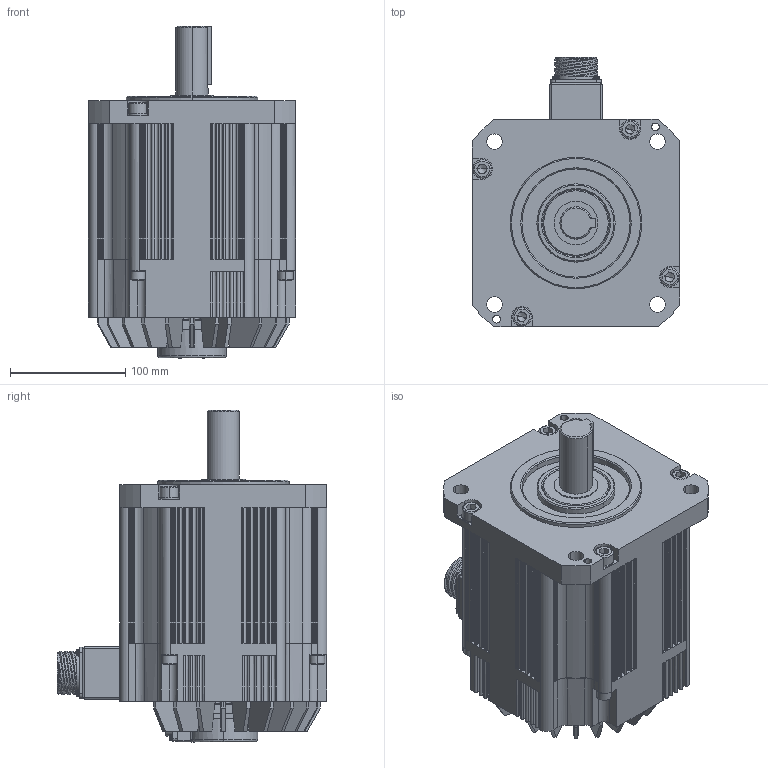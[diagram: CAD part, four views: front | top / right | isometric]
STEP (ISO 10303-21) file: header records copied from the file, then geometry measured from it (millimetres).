
FILE_DESCRIPTION (( 'STEP AP203' ), '1' );
FILE_NAME ('TSM3610N7373E710.STEP', '2018-07-04T09:08:08', ( '' ), ( '' ), 'SwSTEP 2.0', 'SolidWorks 2017', '' );
FILE_SCHEMA (( 'CONFIG_CONTROL_DESIGN' ));
Products named in the file (1): TSM3610N7373E710
Bounding box: 180 x 234.5 x 288.5 mm (x, y, z)
Volume: 5452826.9 mm3; surface area: 327096.1 mm2
Topology: 1 solids, 20 shells, 2441 faces, 6583 edges, 4250 vertices
Faces by surface type: plane 1314, cylinder 636, bspline 356, cone 127, torus 8
Entity records: 101610 total; most frequent: CARTESIAN_POINT 44039, ORIENTED_EDGE 13066, DIRECTION 10138, EDGE_CURVE 6533, VERTEX_POINT 4250, VECTOR 4028, LINE 4028, AXIS2_PLACEMENT_3D 3055
